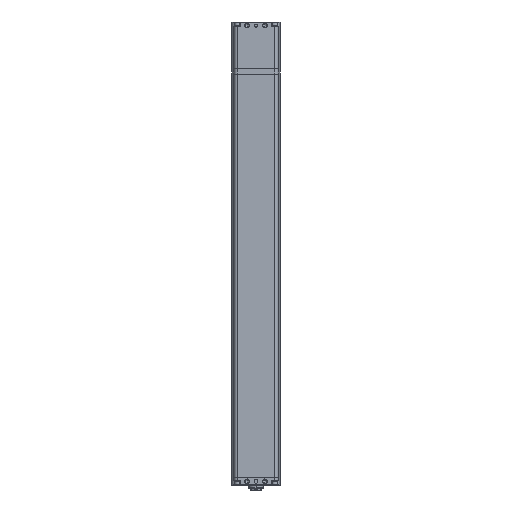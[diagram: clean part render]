
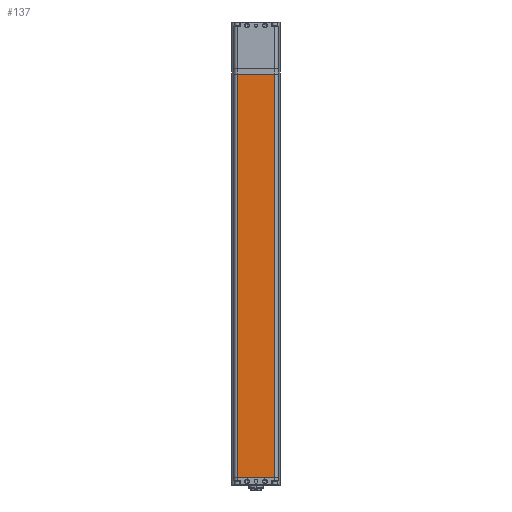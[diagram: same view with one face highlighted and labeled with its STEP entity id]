
A CAD part, front view. The second image highlights one B-rep face of the part: STEP entity #137.
In plain terms, the highlighted planar face has unit normal (0, -1, 0).
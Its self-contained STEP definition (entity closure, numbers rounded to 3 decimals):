
#137 = ADVANCED_FACE ( 'NONE', ( #7452 ), #22335, .T. ) ;
#178 = DIRECTION ( 'NONE',  ( 1., 0., 0. ) ) ;
#389 = EDGE_CURVE ( 'NONE', #13073, #3006, #13907, .T. ) ;
#1221 = CARTESIAN_POINT ( 'NONE',  ( -41., -41., -751. ) ) ;
#2691 = ORIENTED_EDGE ( 'NONE', *, *, #11188, .F. ) ;
#2728 = CARTESIAN_POINT ( 'NONE',  ( -31.138, -41., -73. ) ) ;
#2781 = CARTESIAN_POINT ( 'NONE',  ( 31.138, -41., -1073. ) ) ;
#2848 = CARTESIAN_POINT ( 'NONE',  ( 31.138, -41., -751. ) ) ;
#3006 = VERTEX_POINT ( 'NONE', #11611 ) ;
#3593 = CARTESIAN_POINT ( 'NONE',  ( -41., -41., -73. ) ) ;
#3614 = ORIENTED_EDGE ( 'NONE', *, *, #389, .T. ) ;
#4158 = CARTESIAN_POINT ( 'NONE',  ( -41., -41., -1073. ) ) ;
#5452 = CARTESIAN_POINT ( 'NONE',  ( -31.138, -41., -1073. ) ) ;
#5517 = VERTEX_POINT ( 'NONE', #2728 ) ;
#5573 = ORIENTED_EDGE ( 'NONE', *, *, #9575, .T. ) ;
#7368 = AXIS2_PLACEMENT_3D ( 'NONE', #4158, #21250, #17088 ) ;
#7452 = FACE_OUTER_BOUND ( 'NONE', #14751, .T. ) ;
#7979 = VERTEX_POINT ( 'NONE', #18263 ) ;
#8622 = VECTOR ( 'NONE', #20341, 1000. ) ;
#9559 = VECTOR ( 'NONE', #19546, 1000. ) ;
#9575 = EDGE_CURVE ( 'NONE', #5517, #7979, #14730, .T. ) ;
#10784 = LINE ( 'NONE', #3593, #12717 ) ;
#11188 = EDGE_CURVE ( 'NONE', #5517, #3006, #10784, .T. ) ;
#11611 = CARTESIAN_POINT ( 'NONE',  ( 31.138, -41., -73. ) ) ;
#12717 = VECTOR ( 'NONE', #178, 1000. ) ;
#13067 = ORIENTED_EDGE ( 'NONE', *, *, #22527, .T. ) ;
#13073 = VERTEX_POINT ( 'NONE', #2848 ) ;
#13907 = LINE ( 'NONE', #2781, #23357 ) ;
#14730 = LINE ( 'NONE', #5452, #8622 ) ;
#14751 = EDGE_LOOP ( 'NONE', ( #5573, #13067, #3614, #2691 ) ) ;
#17088 = DIRECTION ( 'NONE',  ( 0., 0., -1. ) ) ;
#17811 = DIRECTION ( 'NONE',  ( 0., 0., 1. ) ) ;
#18263 = CARTESIAN_POINT ( 'NONE',  ( -31.138, -41., -751. ) ) ;
#19546 = DIRECTION ( 'NONE',  ( 1., 0., 0. ) ) ;
#20341 = DIRECTION ( 'NONE',  ( 0., 0., -1. ) ) ;
#21250 = DIRECTION ( 'NONE',  ( 0., -1., 0. ) ) ;
#21623 = LINE ( 'NONE', #1221, #9559 ) ;
#22335 = PLANE ( 'NONE',  #7368 ) ;
#22527 = EDGE_CURVE ( 'NONE', #7979, #13073, #21623, .T. ) ;
#23357 = VECTOR ( 'NONE', #17811, 1000. ) ;
